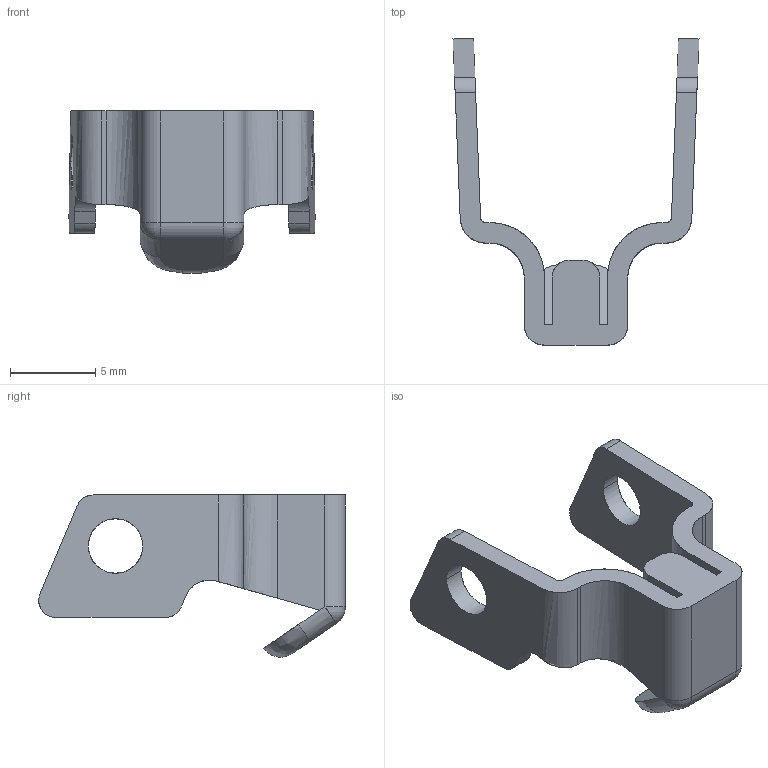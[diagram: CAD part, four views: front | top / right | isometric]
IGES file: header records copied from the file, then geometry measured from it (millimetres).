
Start section: SolidWorks IGES FILE using analytic representation for surfaces
Global section: file name: C:\Documents and Settings\lecoutey\Bureau\GR 78 E\52.060.10.IGS; native system: SolidWorks 2004 by SolidWorks Corporation; preprocessor: Version 5.3; author: lecoutey; date: 050404.175831; units: millimetre
Bounding box: 14.46 x 18.02 x 9.53 mm (x, y, z)
Surface area: 722 mm2 (no closed solid volume)
Topology: 0 solids, 0 shells, 63 faces, 823 edges, 823 vertices
Faces by surface type: revolution 32, bspline 31
